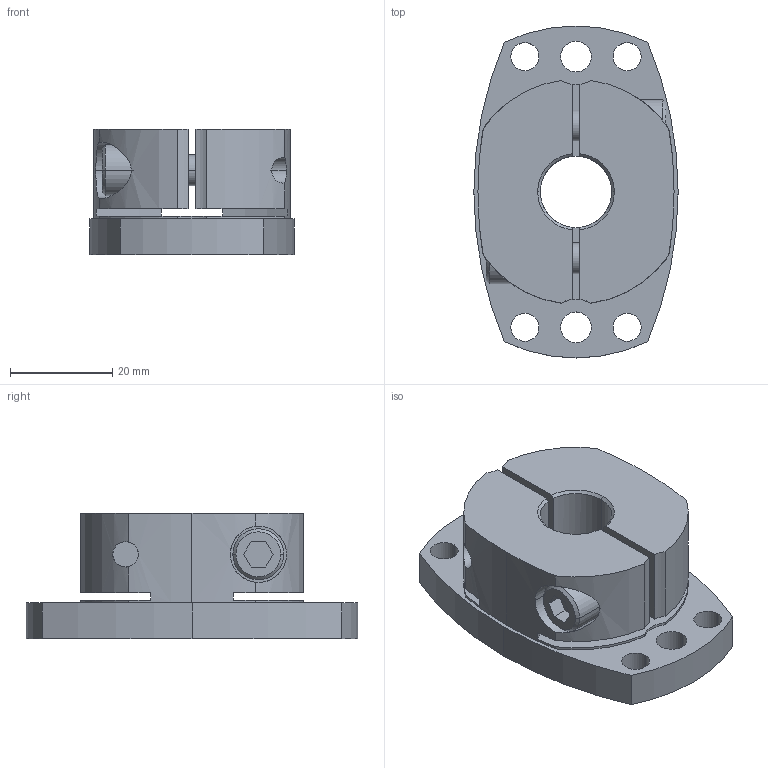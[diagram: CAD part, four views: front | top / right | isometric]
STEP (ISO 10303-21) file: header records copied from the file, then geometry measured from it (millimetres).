
FILE_DESCRIPTION((''),'2;1');
FILE_NAME('SHDB-65B-14.stp','2026-01-28T07:53:47',(''),(''),'AutoCAD STEP 2000i','AutoCAD 2000i',', , ');
FILE_SCHEMA(('CONFIG_CONTROL_DESIGN'));
Length unit declared in the file: millimetre
Products named in the file (2): SHDB-65B-12; 忣兜1
Assembly tree (1 placements, depth 2):
  SHDB-65B-12
    忣兜1
Bounding box: 40 x 65 x 24.5 mm (x, y, z)
Volume: 33120.9 mm3; surface area: 12870.8 mm2
Topology: 1 solids, 1 shells, 102 faces, 280 edges, 184 vertices
Faces by surface type: cylinder 58, plane 34, cone 10
Entity records: 3731 total; most frequent: CARTESIAN_POINT 904, DIRECTION 602, ORIENTED_EDGE 560, EDGE_CURVE 280, AXIS2_PLACEMENT_3D 238, VERTEX_POINT 184, CIRCLE 134, VECTOR 126
